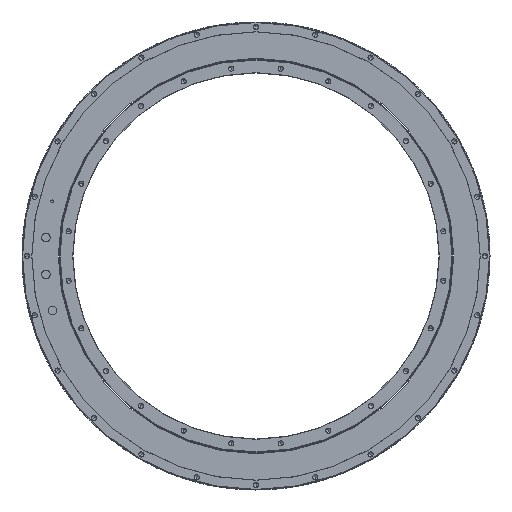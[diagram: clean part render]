
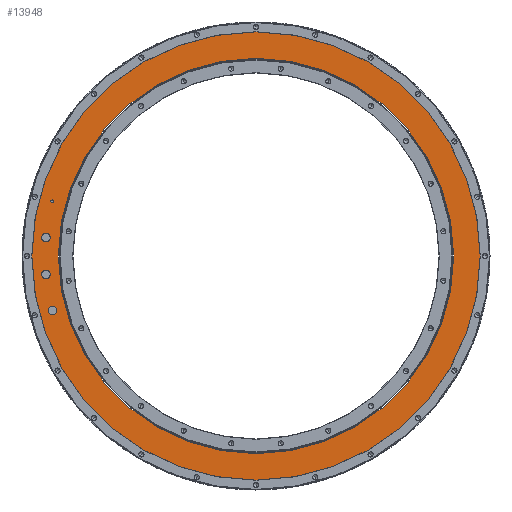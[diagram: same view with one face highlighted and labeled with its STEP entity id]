
A CAD part, left-side view. The second image highlights one B-rep face of the part: STEP entity #13948.
In plain terms, the highlighted planar face has unit normal (-1, 0, 0).
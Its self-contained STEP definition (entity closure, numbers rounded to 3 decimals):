
#13527=CARTESIAN_POINT('',(-193.,0.,0.));
#13528=DIRECTION('',(-1.,0.,0.));
#13529=DIRECTION('',(0.,1.,0.));
#13530=AXIS2_PLACEMENT_3D('',#13527,#13528,#13529);
#13532=CARTESIAN_POINT('',(-193.,0.,0.));
#13533=DIRECTION('',(1.,0.,0.));
#13534=DIRECTION('',(0.,1.,0.));
#13535=AXIS2_PLACEMENT_3D('',#13532,#13533,#13534);
#13537=CARTESIAN_POINT('',(-193.,0.,0.));
#13538=DIRECTION('',(-1.,0.,0.));
#13539=DIRECTION('',(0.,1.,0.));
#13540=AXIS2_PLACEMENT_3D('',#13537,#13538,#13539);
#13542=CARTESIAN_POINT('',(-193.,0.,0.));
#13543=DIRECTION('',(1.,0.,0.));
#13544=DIRECTION('',(0.,1.,0.));
#13545=AXIS2_PLACEMENT_3D('',#13542,#13543,#13544);
#13547=CARTESIAN_POINT('',(-193.,355.581,-95.278));
#13548=DIRECTION('',(-1.,0.,0.));
#13549=DIRECTION('',(0.,0.,1.));
#13550=AXIS2_PLACEMENT_3D('',#13547,#13548,#13549);
#13552=CARTESIAN_POINT('',(-193.,355.581,-95.278));
#13553=DIRECTION('',(-1.,0.,0.));
#13554=DIRECTION('',(0.,0.,-1.));
#13555=AXIS2_PLACEMENT_3D('',#13552,#13553,#13554);
#13557=CARTESIAN_POINT('',(-193.,355.581,95.278));
#13558=DIRECTION('',(-1.,0.,0.));
#13559=DIRECTION('',(0.,0.,1.));
#13560=AXIS2_PLACEMENT_3D('',#13557,#13558,#13559);
#13562=CARTESIAN_POINT('',(-193.,355.581,95.278));
#13563=DIRECTION('',(-1.,0.,0.));
#13564=DIRECTION('',(0.,0.,-1.));
#13565=AXIS2_PLACEMENT_3D('',#13562,#13563,#13564);
#13567=CARTESIAN_POINT('',(-193.,366.724,32.084));
#13568=DIRECTION('',(-1.,0.,0.));
#13569=DIRECTION('',(0.,0.,1.));
#13570=AXIS2_PLACEMENT_3D('',#13567,#13568,#13569);
#13572=CARTESIAN_POINT('',(-193.,366.724,32.084));
#13573=DIRECTION('',(-1.,0.,0.));
#13574=DIRECTION('',(0.,0.,-1.));
#13575=AXIS2_PLACEMENT_3D('',#13572,#13573,#13574);
#13577=CARTESIAN_POINT('',(-193.,366.724,-32.084));
#13578=DIRECTION('',(-1.,0.,0.));
#13579=DIRECTION('',(0.,0.,1.));
#13580=AXIS2_PLACEMENT_3D('',#13577,#13578,#13579);
#13582=CARTESIAN_POINT('',(-193.,366.724,-32.084));
#13583=DIRECTION('',(-1.,0.,0.));
#13584=DIRECTION('',(0.,0.,-1.));
#13585=AXIS2_PLACEMENT_3D('',#13582,#13583,#13584);
#13736=CARTESIAN_POINT('',(-193.,391.25,0.));
#13738=VERTEX_POINT('',#13736);
#13739=CARTESIAN_POINT('',(-193.,345.,0.));
#13741=VERTEX_POINT('',#13739);
#13756=CARTESIAN_POINT('',(-193.,-391.25,0.));
#13758=VERTEX_POINT('',#13756);
#13759=CARTESIAN_POINT('',(-193.,-345.,0.));
#13761=VERTEX_POINT('',#13759);
#13791=CARTESIAN_POINT('',(-193.,355.581,-87.778));
#13792=CARTESIAN_POINT('',(-193.,355.581,-102.778));
#13793=VERTEX_POINT('',#13791);
#13794=VERTEX_POINT('',#13792);
#13795=CARTESIAN_POINT('',(-193.,355.581,97.778));
#13796=CARTESIAN_POINT('',(-193.,355.581,92.778));
#13797=VERTEX_POINT('',#13795);
#13798=VERTEX_POINT('',#13796);
#13799=CARTESIAN_POINT('',(-193.,366.724,39.584));
#13800=CARTESIAN_POINT('',(-193.,366.724,24.584));
#13801=VERTEX_POINT('',#13799);
#13802=VERTEX_POINT('',#13800);
#13803=CARTESIAN_POINT('',(-193.,366.724,-24.584));
#13804=CARTESIAN_POINT('',(-193.,366.724,-39.584));
#13805=VERTEX_POINT('',#13803);
#13806=VERTEX_POINT('',#13804);
#13909=CARTESIAN_POINT('',(-193.,0.,0.));
#13910=DIRECTION('',(1.,0.,0.));
#13911=DIRECTION('',(0.,-1.,0.));
#13912=AXIS2_PLACEMENT_3D('',#13909,#13910,#13911);
#13913=PLANE('',#13912);
#13915=ORIENTED_EDGE('',*,*,#13914,.F.);
#13917=ORIENTED_EDGE('',*,*,#13916,.T.);
#13918=EDGE_LOOP('',(#13915,#13917));
#13919=FACE_OUTER_BOUND('',#13918,.F.);
#13920=ORIENTED_EDGE('',*,*,#13902,.F.);
#13921=ORIENTED_EDGE('',*,*,#13891,.T.);
#13922=EDGE_LOOP('',(#13920,#13921));
#13923=FACE_BOUND('',#13922,.F.);
#13925=ORIENTED_EDGE('',*,*,#13924,.T.);
#13927=ORIENTED_EDGE('',*,*,#13926,.T.);
#13928=EDGE_LOOP('',(#13925,#13927));
#13929=FACE_BOUND('',#13928,.F.);
#13931=ORIENTED_EDGE('',*,*,#13930,.T.);
#13933=ORIENTED_EDGE('',*,*,#13932,.T.);
#13934=EDGE_LOOP('',(#13931,#13933));
#13935=FACE_BOUND('',#13934,.F.);
#13937=ORIENTED_EDGE('',*,*,#13936,.T.);
#13939=ORIENTED_EDGE('',*,*,#13938,.T.);
#13940=EDGE_LOOP('',(#13937,#13939));
#13941=FACE_BOUND('',#13940,.F.);
#13943=ORIENTED_EDGE('',*,*,#13942,.T.);
#13945=ORIENTED_EDGE('',*,*,#13944,.T.);
#13946=EDGE_LOOP('',(#13943,#13945));
#13947=FACE_BOUND('',#13946,.F.);
#13948=ADVANCED_FACE('',(#13919,#13923,#13929,#13935,#13941,#13947),#13913,.F.);
#13531=CIRCLE('',#13530,345.);
#13536=CIRCLE('',#13535,345.);
#13541=CIRCLE('',#13540,391.25);
#13546=CIRCLE('',#13545,391.25);
#13551=CIRCLE('',#13550,7.5);
#13556=CIRCLE('',#13555,7.5);
#13561=CIRCLE('',#13560,2.5);
#13566=CIRCLE('',#13565,2.5);
#13571=CIRCLE('',#13570,7.5);
#13576=CIRCLE('',#13575,7.5);
#13581=CIRCLE('',#13580,7.5);
#13586=CIRCLE('',#13585,7.5);
#13891=EDGE_CURVE('',#13741,#13761,#13531,.T.);
#13902=EDGE_CURVE('',#13741,#13761,#13536,.T.);
#13914=EDGE_CURVE('',#13738,#13758,#13541,.T.);
#13916=EDGE_CURVE('',#13738,#13758,#13546,.T.);
#13924=EDGE_CURVE('',#13793,#13794,#13551,.T.);
#13926=EDGE_CURVE('',#13794,#13793,#13556,.T.);
#13930=EDGE_CURVE('',#13797,#13798,#13561,.T.);
#13932=EDGE_CURVE('',#13798,#13797,#13566,.T.);
#13936=EDGE_CURVE('',#13801,#13802,#13571,.T.);
#13938=EDGE_CURVE('',#13802,#13801,#13576,.T.);
#13942=EDGE_CURVE('',#13805,#13806,#13581,.T.);
#13944=EDGE_CURVE('',#13806,#13805,#13586,.T.);
